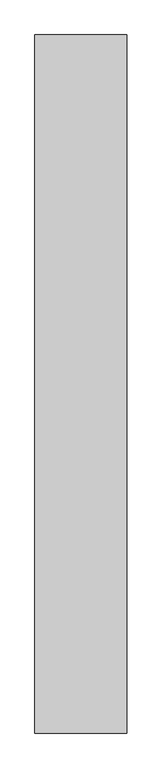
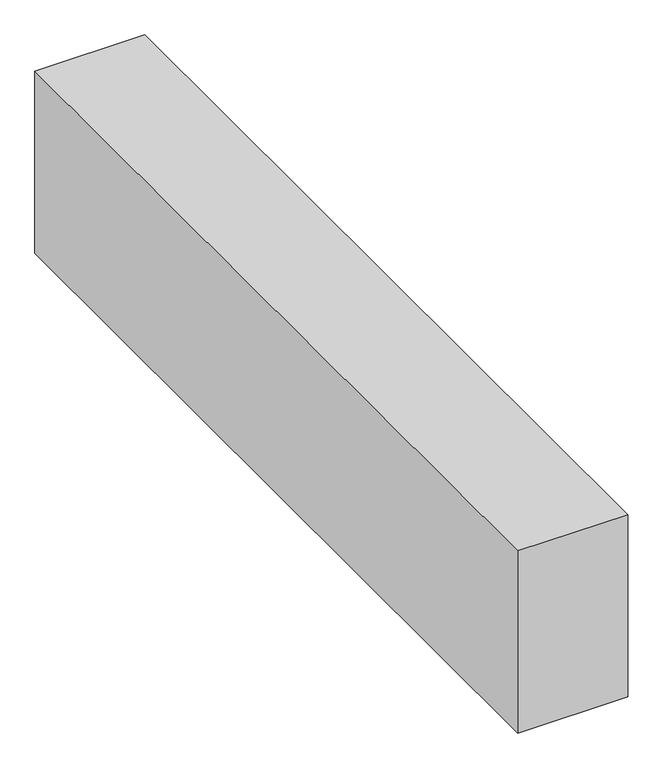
"""IFC4 building model written with IfcOpenShell, lengths in millimetres: proxy geometry."""

from ifc_helpers import new_model, si_unit, frame, origin, place, context, project, spatial, polyline, outline, extrude, source, transform, mapped, element, save


def structural_framing_6a9002ec(model_context):
    return source(origin(), model_context, "Body", "SweptSolid", [
        extrude(outline(polyline([(100.0, -760.0), (-100.0, -760.0), (-100.0, 760.0), (100.0, 760.0), (100.0, -760.0)])), frame((0.0, 0.0, -350.0), z_axis=(0.0, 0.0, 1.0), x_axis=(1.0, 0.0, 0.0)), (0.0, 0.0, 1.0), 350.0),
    ])


if __name__ == "__main__":
    model = new_model("IFC4")
    model_context = context("Model", 3, world=origin())
    ifc_project = project(units=[si_unit("LENGTHUNIT", "METRE", prefix="MILLI")], contexts=[model_context])
    site = spatial("IfcSite", under=ifc_project)
    building = spatial("IfcBuilding", under=site)
    placement = place(None, origin())
    structural_framing_shape = structural_framing_6a9002ec(model_context)
    element("IfcBuildingElementProxy", 1, Name="Structural Framing", at=placement, inside=building, context=model_context, shape_type="MappedRepresentation", body=[
        mapped(structural_framing_shape, transform((0.0, 0.0, 0.0), x_axis=(1.0, 0.0, 0.0), y_axis=(0.0, 1.0, 0.0), z_axis=(0.0, 0.0, 1.0))),
    ])
    save(model, "model.ifc")
